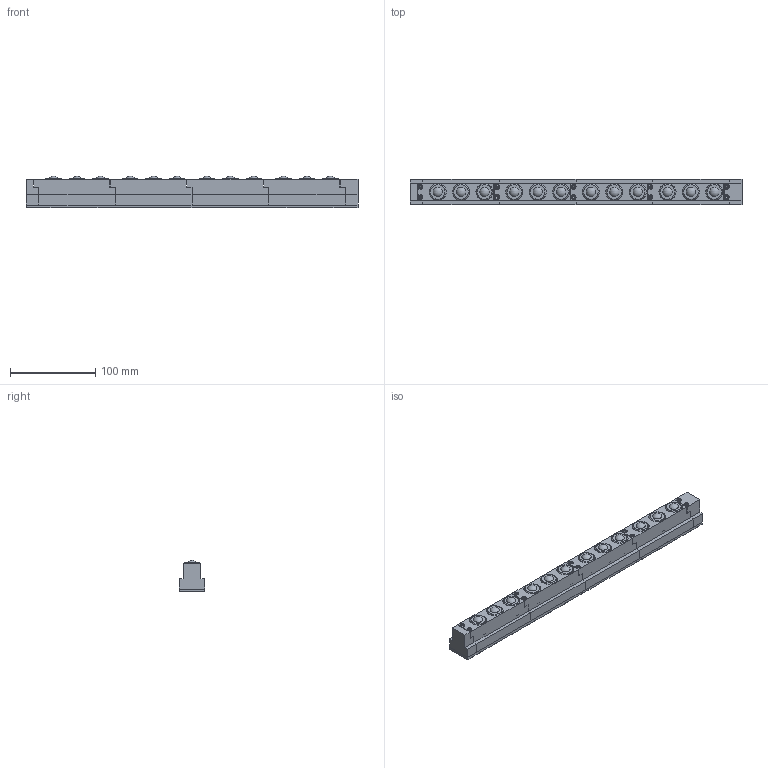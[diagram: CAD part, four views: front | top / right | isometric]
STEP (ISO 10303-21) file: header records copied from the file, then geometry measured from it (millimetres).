
FILE_DESCRIPTION(/* description */ (''),/* implementation_level */ '2;1');
FILE_NAME(/* name */ 'Z:\34-Tei\01-web 3Dデータ\44-ISR-22T\X2\578B\X0\\ISR-22T-390.stp',/* time_stamp */ '2015-01-16T11:15:23+09:00',/* author */ ('yamaki'),/* organization */ (''),/* preprocessor_version */ 'ST-DEVELOPER v15.6',/* originating_system */ 'Autodesk Inventor 2015',/* authorisation */ '');
FILE_SCHEMA (('AUTOMOTIVE_DESIGN { 1 0 10303 214 3 1 1 }'));
Length unit declared in the file: millimetre
Products named in the file (9): 4A03SL; JIS B 1176 - M3 x 10; A213AA; 4A03PS; JIS B 1111 - Csunk M4 x 8 - H; 4A03BA-04; 4A03TB; 4A03CB; 4A03AA
Bounding box: 390 x 30 x 36.96 mm (x, y, z)
Volume: 272385.2 mm3; surface area: 164609.8 mm2
Topology: 77 solids, 77 shells, 2023 faces, 4903 edges, 3118 vertices
Faces by surface type: plane 736, cone 574, cylinder 429, torus 272, sphere 12
Full cylindrical faces by diameter (mm): 2 x9, 2.459 x10, 2.5 x8, 3 x10, 3.242 x36, 3.5 x10, 3.571 x36, 4 x36, 4.5 x36, 5.5 x10, 6 x12, 6.1 x12, 6.2 x5, 8.4 x36, 8.566 x1, 13 x12, 16.5 x12, 19 x12, 19.9 x12, 20 x36, 23.8 x24, 24 x12
Entity records: 8488 total; most frequent: CARTESIAN_POINT 1534, DIRECTION 1500, ORIENTED_EDGE 1076, AXIS2_PLACEMENT_3D 634, EDGE_CURVE 538, EDGE_LOOP 516, VERTEX_POINT 408, FACE_OUTER_BOUND 284
